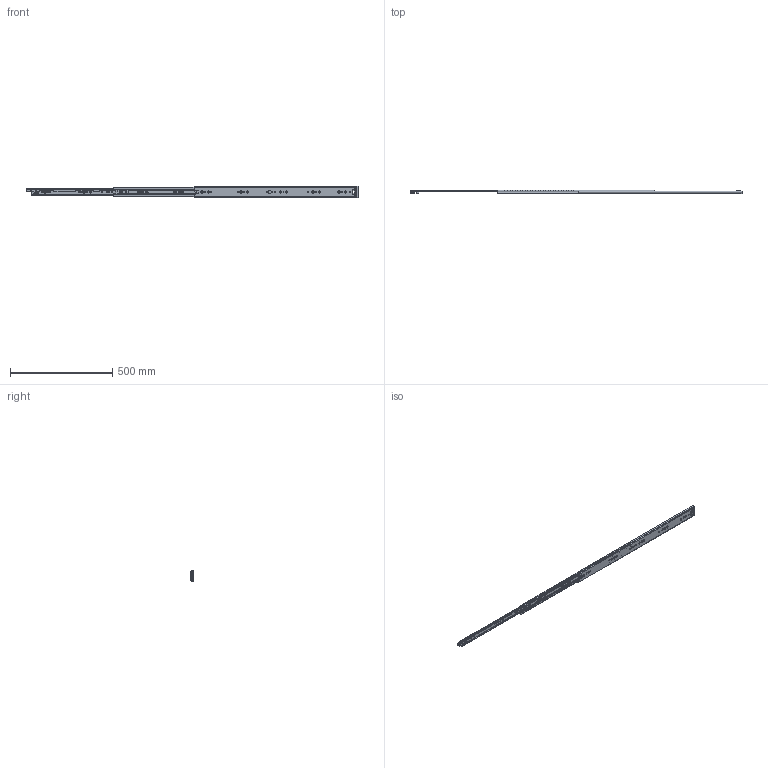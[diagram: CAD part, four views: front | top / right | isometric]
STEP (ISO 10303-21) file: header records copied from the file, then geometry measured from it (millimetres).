
FILE_DESCRIPTION((''),'2;1');
FILE_NAME('KP-57-01ZUZHUANGTU-32YOU_ASM','2023-04-03T',('jishu015'),(''),'PRO/ENGINEER BY PARAMETRIC TECHNOLOGY CORPORATION, 2010280','PRO/ENGINEER BY PARAMETRIC TECHNOLOGY CORPORATION, 2010280','');
FILE_SCHEMA(('CONFIG_CONTROL_DESIGN'));
Products named in the file (21): KP-57-01WEIKE-18___________; 1057WEIJIAO___________; WAIKE__________ASM; KP-57-01ZHONGGUI-18___________; ZHONGGUIPEIJIAN-11_________; ZHONGGUISUOKOU-11_________; KP-57-01ZHONGGUI-18____________ASM; 1057XIAOZHUJIA___________; 1057-5-6GANZHU___________; 1057XIAOZHUJIA-14GE____________ASM; KP-57-01NEIGUI-18___________; PJ-57-08_________; DIAOPIAN-11_________; 50XINSUOKOU-1_________; 1053-3SBANJI122_______; JIAO11_______; KP-57-01NEIGUI-18____________ASM; 1053ZHUTIAO-175_______________; 53-5-6GANZHU_______________; 1053ZHUTIAO-175MM__________ASM; KP-57-01ZUZHUANGTU-32YOU_ASM
Assembly tree (89 placements, depth 3):
  KP-57-01ZUZHUANGTU-32YOU_ASM
    WAIKE__________ASM
      KP-57-01WEIKE-18___________
      1057WEIJIAO___________
    KP-57-01ZHONGGUI-18____________ASM
      KP-57-01ZHONGGUI-18___________
      ZHONGGUIPEIJIAN-11_________
      ZHONGGUISUOKOU-11_________
    1057XIAOZHUJIA-14GE____________ASM
      1057XIAOZHUJIA___________
      1057-5-6GANZHU___________  x56
    KP-57-01NEIGUI-18____________ASM
      KP-57-01NEIGUI-18___________
      PJ-57-08_________
      DIAOPIAN-11_________
      50XINSUOKOU-1_________
      1053-3SBANJI122_______
      JIAO11_______
    1053ZHUTIAO-175MM__________ASM  x2
      1053ZHUTIAO-175_______________
      53-5-6GANZHU_______________
Bounding box: 1626.95 x 19 x 57.67 mm (x, y, z)
Volume: 349256.9 mm3; surface area: 380810.8 mm2
Topology: 99 solids, 99 shells, 2589 faces, 7497 edges, 4691 vertices
Faces by surface type: cylinder 1115, plane 1054, sphere 179, bspline 115, cone 84, extrusion 23, torus 19
Entity records: 83983 total; most frequent: CARTESIAN_POINT 20686, ORIENTED_EDGE 13426, DIRECTION 13015, EDGE_CURVE 6713, AXIS2_PLACEMENT_3D 4487, VERTEX_POINT 4343, VECTOR 4041, LINE 4018
